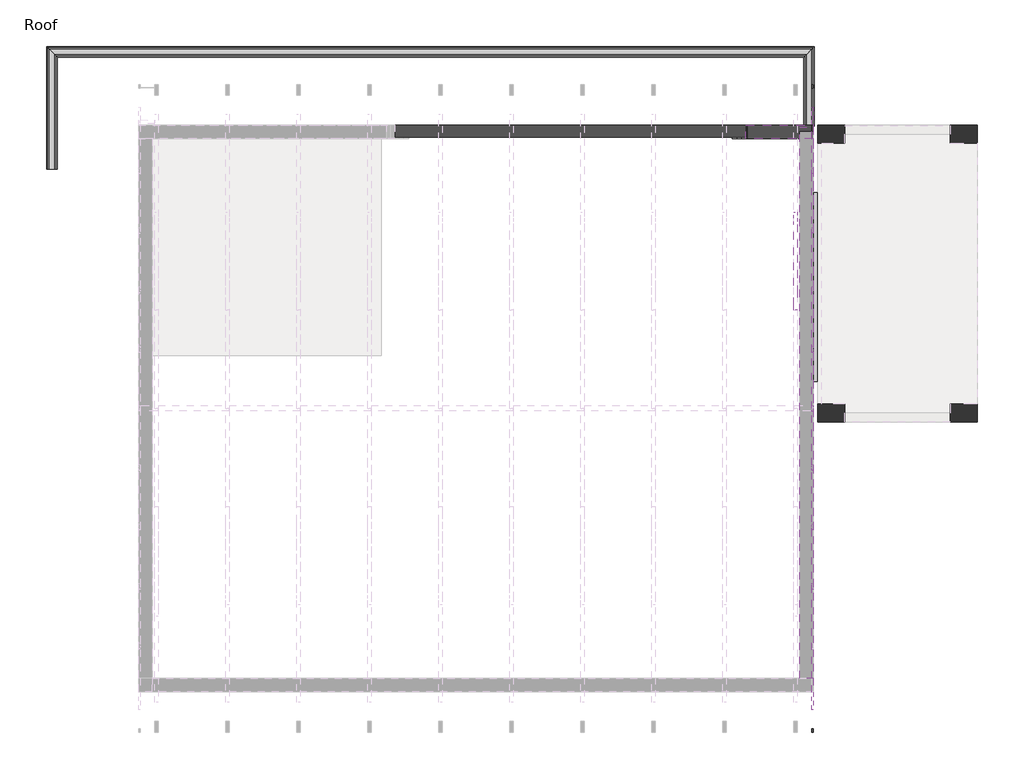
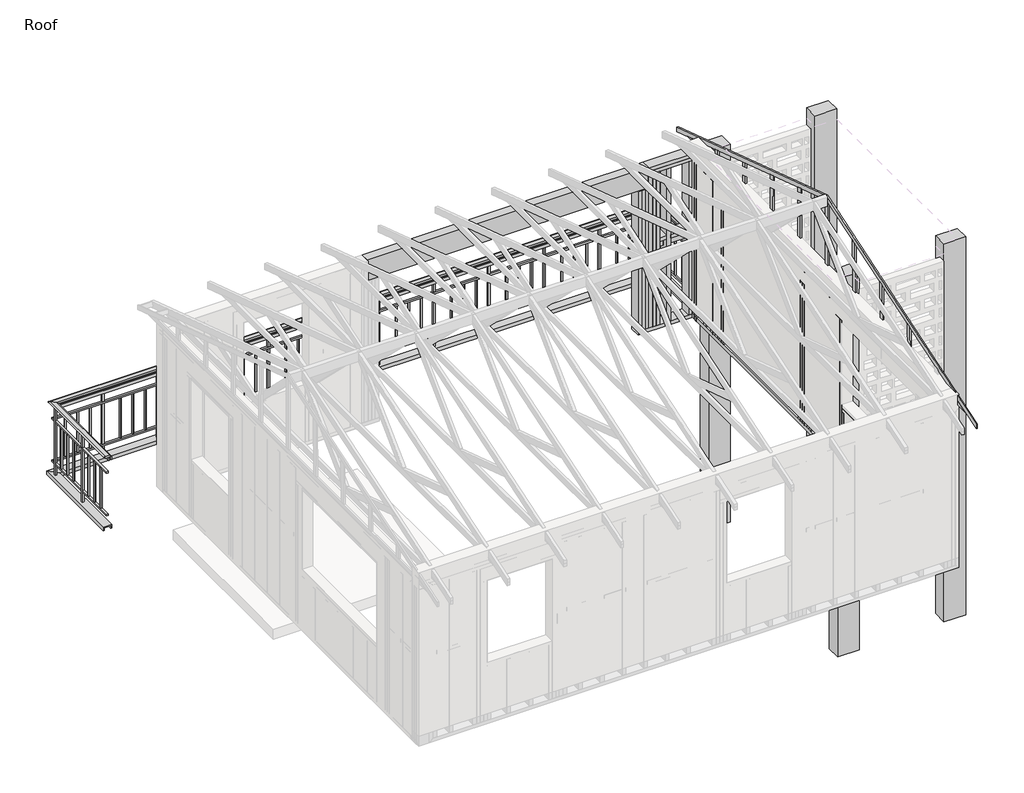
# One storey, part 6 of 6: 81 beams, 4 columns, 1 railing.
"""IFC4 building model written with IfcOpenShell, lengths in millimetres."""

from ifc_helpers import new_model, si_unit, frame, origin, place, context, project, spatial, polyline, outline, extrude, faceted_brep, transform, mapped, element, save
from components import beam_3bb925f9, beam_12bf33d6, beam_a75097df, beam_3d1db731, beam_175f67f2, beam_d3007124, beam_3441daed, beam_63583358, beam_00115404, beam_426ab018, beam_8f42c894, dimension_lumber_6x12_6beca198, experttrusspart_2_x_4_7bcd8695, beam_9beb57b8, beam_8732290f, beam_0b2bfc08, beam_fe6cf38c, beam_1f2a4a11, beam_7a36c676, beam_ed9dd588, beam_3d62fdea, beam_8214b640, beam_887bc2fe, beam_6c61fdf5, beam_94f9b516, beam_558964e0, beam_e041d9c6, beam_8c6c5f68, beam_fcf6d596, beam_edb33da1, beam_bb747b8e, beam_2bd315d8, beam_2e444c4d, beam_dc1d60f5, beam_9d6aa0d6, beam_1c807b94, beam_559e72fd, beam_a83041ab, beam_c92ab070, railing_9f6f884b

model = new_model("IFC4")

# Units and contexts
model_context = context("Model", 3, world=origin())
ifc_project = project(units=[si_unit("LENGTHUNIT", "METRE", prefix="MILLI")], contexts=[model_context])

# Site, building, storey
site = spatial("IfcSite", under=ifc_project)
building = spatial("IfcBuilding", under=site)
storey = spatial("IfcBuildingStorey", under=building, Name="Roof", Elevation=4267.2)

# Beams
placement = place(None, origin())
element("IfcBeam", 1, ObjectType="BraceBeam : 1\" x 3\"", at=placement, inside=storey, context=model_context, shape_type="Brep", body=[
    faceted_brep([(-3928.7290766, -18556.068475, 5537.2), (-3909.6790766, -18556.068475, 5537.2), (-3909.6790766, -25364.6841988, 5537.2), (-3928.7290766, -25364.6841988, 5537.2), (-3909.6790766, -18653.3450708, 5568.95), (-3909.6790766, -18750.6216665, 5600.7), (-3909.6790766, -25170.1310073, 5600.7), (-3909.6790766, -25267.4076031, 5568.95), (-3928.7290766, -18750.6216665, 5600.7), (-3928.7290766, -25170.1310073, 5600.7), (-3928.7290766, -18653.3450708, 5568.95), (-3928.7290766, -25267.4076031, 5568.95)], [[[0, 1, 2, 3]], [[4, 5, 6, 7, 2, 1]], [[5, 8, 9, 6]], [[10, 0, 3, 11, 9, 8]], [[8, 5, 4, 1, 0, 10]], [[6, 9, 11, 3, 2, 7]]]),
])
element("IfcBeam", 2, ObjectType="BraceBeam : 1\" x 3\"", at=placement, inside=storey, context=model_context, shape_type="Brep", body=[
    faceted_brep([(-3928.7290766, -25364.6841988, 5537.2), (-3928.7290766, -18556.068475, 5537.2), (-3909.6790766, -18556.068475, 5537.2), (-3909.6790766, -25364.6841988, 5537.2), (-3909.6790766, -25267.4076031, 5568.95), (-3909.6790766, -18653.3450708, 5568.95), (-3909.6790766, -18750.6216665, 5600.7), (-3909.6790766, -25170.1310073, 5600.7), (-3928.7290766, -18750.6216665, 5600.7), (-3928.7290766, -25170.1310073, 5600.7), (-3928.7290766, -25267.4076031, 5568.95), (-3928.7290766, -18653.3450708, 5568.95)], [[[0, 1, 2, 3]], [[4, 3, 2, 5, 6, 7]], [[7, 6, 8, 9]], [[10, 9, 8, 11, 1, 0]], [[9, 10, 0, 3, 4, 7]], [[6, 5, 2, 1, 11, 8]]]),
])
element("IfcBeam", 3, ObjectType="BraceBeam : 1\" x 3\"", at=placement, inside=storey, context=model_context, shape_type="Brep", body=[
    faceted_brep([(-3928.7290766, -25617.9763369, 5454.5282605), (-3928.7290766, -21960.3763369, 6648.3282605), (-3909.6790766, -21960.3763369, 6648.3282605), (-3909.6790766, -25617.9763369, 5454.5282605), (-3909.6790766, -25617.9763369, 5487.9266302), (-3909.6790766, -21960.3763369, 6681.7266302), (-3909.6790766, -21960.3763369, 6715.125), (-3909.6790766, -25617.9763369, 5521.325), (-3928.7290766, -21960.3763369, 6715.125), (-3928.7290766, -25617.9763369, 5521.325), (-3928.7290766, -25617.9763369, 5487.9266302), (-3928.7290766, -21960.3763369, 6681.7266302)], [[[0, 1, 2, 3]], [[4, 3, 2, 5, 6, 7]], [[7, 6, 8, 9]], [[10, 9, 8, 11, 1, 0]], [[9, 10, 0, 3, 4, 7]], [[6, 5, 2, 1, 11, 8]]]),
])
element("IfcBeam", 4, ObjectType="BraceBeam : 1\" x 3\"", at=placement, inside=storey, context=model_context, shape_type="Brep", body=[
    faceted_brep([(-3909.6790766, -18302.7763369, 5454.5282605), (-3909.6790766, -21960.3763369, 6648.3282605), (-3928.7290766, -21960.3763369, 6648.3282605), (-3928.7290766, -18302.7763369, 5454.5282605), (-3928.7290766, -18302.7763369, 5487.9266302), (-3928.7290766, -21960.3763369, 6681.7266302), (-3928.7290766, -21960.3763369, 6715.125), (-3928.7290766, -18302.7763369, 5521.325), (-3909.6790766, -21960.3763369, 6715.125), (-3909.6790766, -18302.7763369, 5521.325), (-3909.6790766, -18302.7763369, 5487.9266302), (-3909.6790766, -21960.3763369, 6681.7266302)], [[[0, 1, 2, 3]], [[4, 3, 2, 5, 6, 7]], [[7, 6, 8, 9]], [[10, 9, 8, 11, 1, 0]], [[9, 10, 0, 3, 4, 7]], [[6, 5, 2, 1, 11, 8]]]),
])
beam_shape = beam_3bb925f9(model_context)
element("IfcBeam", 5, ObjectType="BraceBeam : 1\" x 3\"", at=placement, inside=storey, context=model_context, shape_type="MappedRepresentation", body=[
    mapped(beam_shape, transform((-3919.2040766, -19948.7189651, 5797.3979168), x_axis=(0.0, -0.009412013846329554, 0.9999557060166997), y_axis=(1.0, -1.20881888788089e-11, 0.0), z_axis=(1.2087653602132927e-11, 0.9999557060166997, 0.009412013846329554))),
])
beam_2_shape = beam_12bf33d6(model_context)
element("IfcBeam", 6, ObjectType="BraceBeam : 1\" x 3\"", at=placement, inside=storey, context=model_context, shape_type="MappedRepresentation", body=[
    mapped(beam_2_shape, transform((-3919.2040766, -19276.5521327, 5687.5575366), x_axis=(0.0, -0.010560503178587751, 0.9999442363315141), y_axis=(1.0, -2.226209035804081e-11, 0.0), z_axis=(2.2260849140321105e-11, 0.9999442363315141, 0.010560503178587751))),
])
beam_3_shape = beam_a75097df(model_context)
element("IfcBeam", 7, ObjectType="BraceBeam : 1\" x 3\"", at=placement, inside=storey, context=model_context, shape_type="MappedRepresentation", body=[
    mapped(beam_3_shape, transform((-3919.2040766, -23971.8455409, 5797.4593327), x_axis=(0.0, 0.010232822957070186, 0.9999476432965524), y_axis=(-1.0, -8.449375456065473e-12, 0.0), z_axis=(8.448932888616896e-12, -0.9999476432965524, 0.010232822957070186))),
])
beam_4_shape = beam_3d1db731(model_context)
element("IfcBeam", 8, ObjectType="BraceBeam : 1\" x 3\"", at=placement, inside=storey, context=model_context, shape_type="MappedRepresentation", body=[
    mapped(beam_4_shape, transform((-3919.2040766, -22627.5788952, 6017.1182188), x_axis=(0.0, 0.00907356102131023, 0.9999588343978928), y_axis=(-1.0, 0.0, 0.0), z_axis=(0.0, -0.9999588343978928, 0.00907356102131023))),
])
beam_5_shape = beam_175f67f2(model_context)
element("IfcBeam", 9, ObjectType="BraceBeam : 1\" x 3\"", at=placement, inside=storey, context=model_context, shape_type="MappedRepresentation", body=[
    mapped(beam_5_shape, transform((-3919.2040766, -23299.7521017, 5907.2757582), x_axis=(0.0, 0.009347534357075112, 0.9999563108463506), y_axis=(-1.0, 1.0289533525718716e-12, 0.0), z_axis=(-1.0289085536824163e-12, -0.9999563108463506, 0.009347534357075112))),
])
beam_6_shape = beam_d3007124(model_context)
element("IfcBeam", 10, ObjectType="BraceBeam : 1\" x 3\"", at=placement, inside=storey, context=model_context, shape_type="MappedRepresentation", body=[
    mapped(beam_6_shape, transform((-3919.2040766, -23971.9253083, 5797.4332975), x_axis=(0.0, 0.009884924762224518, 0.9999511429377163), y_axis=(-1.0, 0.0, 0.0), z_axis=(0.0, -0.9999511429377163, 0.009884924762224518))),
])
beam_7_shape = beam_3441daed(model_context)
element("IfcBeam", 11, ObjectType="BraceBeam : 1\" x 3\"", at=placement, inside=storey, context=model_context, shape_type="MappedRepresentation", body=[
    mapped(beam_7_shape, transform((-3919.2040766, -21293.1172476, 6017.0997677), x_axis=(0.0, -0.008947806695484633, 0.9999599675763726), y_axis=(1.0, 0.0, 0.0), z_axis=(0.0, 0.9999599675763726, 0.008947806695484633))),
])
beam_8_shape = beam_63583358(model_context)
element("IfcBeam", 12, ObjectType="BraceBeam : 1\" x 3\"", at=placement, inside=storey, context=model_context, shape_type="MappedRepresentation", body=[
    mapped(beam_8_shape, transform((-3919.2040766, -20620.9567893, 5907.2614679), x_axis=(0.0, -0.00921853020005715, 0.9999575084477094), y_axis=(1.0, 0.0, 0.0), z_axis=(0.0, 0.9999575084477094, 0.00921853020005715))),
])
beam_9_shape = beam_00115404(model_context)
element("IfcBeam", 13, ObjectType="BraceBeam : 1\" x 3\"", at=placement, inside=storey, context=model_context, shape_type="MappedRepresentation", body=[
    mapped(beam_9_shape, transform((-3919.2040766, -19948.7963309, 5797.4231681), x_axis=(0.0, -0.00974954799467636, 0.9999524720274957), y_axis=(1.0, 0.0, 0.0), z_axis=(0.0, 0.9999524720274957, 0.00974954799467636))),
])
beam_10_shape = beam_426ab018(model_context)
element("IfcBeam", 14, ObjectType="BraceBeam : 1\" x 3\"", at=placement, inside=storey, context=model_context, shape_type="MappedRepresentation", body=[
    mapped(beam_10_shape, transform((-3919.2040766, -19276.6358726, 5687.5848683), x_axis=(0.0, -0.011263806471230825, 0.9999365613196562), y_axis=(1.0, 0.0, 0.0), z_axis=(0.0, 0.9999365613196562, 0.011263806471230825))),
])
beam_11_shape = beam_8f42c894(model_context)
element("IfcBeam", 15, ObjectType="BraceBeam : 1\" x 3\"", at=placement, inside=storey, context=model_context, shape_type="MappedRepresentation", body=[
    mapped(beam_11_shape, transform((-3919.2040766, -21961.4907458, 6141.7871363), x_axis=(0.0, 0.0, 1.0), y_axis=(-1.0, -1.9496712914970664e-12, 0.0), z_axis=(1.9496712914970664e-12, -1.0, 0.0))),
])
dimension_lumber_6x12_shape = dimension_lumber_6x12_6beca198(model_context)
element("IfcBeam", 16, ObjectType="Dimension Lumber : 6x12", at=placement, inside=storey, context=model_context, shape_type="MappedRepresentation", body=[
    mapped(dimension_lumber_6x12_shape, transform((-6652.8740766, -18826.6513369, 5384.8), x_axis=(1.0, 0.0, 0.0), y_axis=(0.0, 1.0, 0.0), z_axis=(0.0, 0.0, 1.0))),
])
element("IfcBeam", 17, ObjectType="ExpertTrussPart : 2 x 4", at=placement, inside=storey, context=model_context, shape_type="SweptSolid", body=[
    extrude(outline(polyline([(-19883.9561718, 5943.8890941), (-19812.3273277, 5920.5102353), (-19740.6984836, 5897.1313765), (-20571.0924881, 5626.1), (-20850.5374103, 5626.1), (-20850.2876203, 5628.4892463), (-19883.9561718, 5943.8890941)])), frame((-4130.6590766, 0.0, 0.0), z_axis=(1.0, 0.0, 0.0), x_axis=(0.0, 1.0, 0.0)), (0.0, 0.0, 1.0), 38.1),
])
experttrusspart_2_x_4_shape = experttrusspart_2_x_4_7bcd8695(model_context)
element("IfcBeam", 18, ObjectType="ExpertTrussPart : 2 x 4", at=placement, inside=storey, context=model_context, shape_type="MappedRepresentation", body=[
    mapped(experttrusspart_2_x_4_shape, transform((-4111.6090766, -20145.3682843, 6029.2111031), x_axis=(0.0, 0.950645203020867, -0.3102800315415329), y_axis=(-1.0, 0.0, 0.0), z_axis=(0.0, 0.3102800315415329, 0.950645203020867))),
])
element("IfcBeam", 19, ObjectType="Rectangular(Timber)-Beam : Timber_0' - 1 31/32\" x0' - 5 29/32\" _ContentGenerator", at=placement, inside=storey, context=model_context, shape_type="SweptSolid", body=[
    extrude(outline(polyline([(-24957.5813369, 5435.6), (-25008.3813369, 5486.4), (-18861.5763369, 5486.4), (-18861.5763369, 5435.6), (-24957.5813369, 5435.6)])), frame((-4062.0790766, 0.0, 0.0), z_axis=(1.0, 0.0, 0.0), x_axis=(0.0, 1.0, 0.0)), (0.0, 0.0, 1.0), 152.4),
])
element("IfcBeam", 20, ObjectType="Rectangular(Timber)-Beam : Timber_0' - 1 31/32\" x0' - 5 29/32\" _ContentGenerator", at=placement, inside=storey, context=model_context, shape_type="SweptSolid", body=[
    extrude(outline(polyline([(-18861.5763369, 3149.6), (-18861.5763369, 3098.8), (-25008.3813369, 3098.8), (-24957.5813369, 3149.6), (-18861.5763369, 3149.6)])), frame((-4062.0790766, 0.0, 0.0), z_axis=(1.0, 0.0, 0.0), x_axis=(0.0, 1.0, 0.0)), (0.0, 0.0, 1.0), 152.4),
])
element("IfcBeam", 21, ObjectType="Rectangular(Timber)-Beam : Timber_0' - 1 31/32\" x0' - 5 29/32\" _ContentGenerator", at=placement, inside=storey, context=model_context, shape_type="SweptSolid", body=[
    extrude(outline(polyline([(-3909.6790766, -18912.3863369), (-3909.6790766, -18963.1863369), (-4062.0790766, -18963.1863369), (-4062.0790766, -18912.3863369), (-3909.6790766, -18912.3863369)])), frame((0.0, 0.0, 3098.8), z_axis=(0.0, 0.0, 1.0), x_axis=(1.0, 0.0, 0.0)), (0.0, 0.0, 1.0), 2336.8),
])
element("IfcBeam", 22, ObjectType="Rectangular(Timber)-Beam : Timber_0' - 1 31/32\" x0' - 5 29/32\" _ContentGenerator", at=placement, inside=storey, context=model_context, shape_type="SweptSolid", body=[
    extrude(outline(polyline([(5486.4, -3909.6740766), (5435.6, -3960.4740766), (3098.8, -3960.4740766), (3098.8, -3909.6740766), (5486.4, -3909.6740766)])), frame((0.0, -18912.3763369, 0.0), z_axis=(0.0, 1.0, 0.0), x_axis=(0.0, 0.0, 1.0)), (0.0, 0.0, 1.0), 152.4),
])
element("IfcBeam", 23, ObjectType="Rectangular(Timber)-Beam : Timber_0' - 1 31/32\" x0' - 5 29/32\" _ContentGenerator", at=placement, inside=storey, context=model_context, shape_type="SweptSolid", body=[
    extrude(outline(polyline([(5435.6, -4620.8740766), (5486.4, -4671.6740766), (3149.6, -4671.6740766), (3149.6, -4620.8740766), (5435.6, -4620.8740766)])), frame((0.0, -18912.3763369, 0.0), z_axis=(0.0, 1.0, 0.0), x_axis=(0.0, 0.0, 1.0)), (0.0, 0.0, 1.0), 152.4),
])
element("IfcBeam", 24, ObjectType="Rectangular(Timber)-Beam : Timber_0' - 1 31/32\" x0' - 5 29/32\" _ContentGenerator", at=placement, inside=storey, context=model_context, shape_type="SweptSolid", body=[
    extrude(outline(polyline([(-3909.6790766, -18759.9763369), (-3909.6790766, -18912.3763369), (-4671.6740766, -18912.3763369), (-4671.6740766, -18759.9763369), (-3909.6790766, -18759.9763369)])), frame((0.0, 0.0, 5486.4), z_axis=(0.0, 0.0, 1.0), x_axis=(1.0, 0.0, 0.0)), (0.0, 0.0, 1.0), 50.8),
])
element("IfcBeam", 25, ObjectType="Rectangular(Timber)-Beam : Timber_0' - 1 31/32\" x0' - 5 29/32\" _ContentGenerator", at=placement, inside=storey, context=model_context, shape_type="SweptSolid", body=[
    extrude(outline(polyline([(5435.6, -3960.4740766), (5486.4, -3909.6740766), (5486.4, -4671.6740766), (5435.6, -4620.8740766), (5435.6, -3960.4740766)])), frame((0.0, -18912.3763369, 0.0), z_axis=(0.0, 1.0, 0.0), x_axis=(0.0, 0.0, 1.0)), (0.0, 0.0, 1.0), 152.4),
])
element("IfcBeam", 26, ObjectType="Rectangular(Timber)-Beam : Timber_0' - 1 31/32\" x0' - 5 29/32\" _ContentGenerator", at=placement, inside=storey, context=model_context, shape_type="SweptSolid", body=[
    extrude(outline(polyline([(-3909.6790766, -22366.7863369), (-3909.6790766, -22417.5863369), (-4062.0790766, -22417.5863369), (-4062.0790766, -22366.7863369), (-3909.6790766, -22366.7863369)])), frame((0.0, 0.0, 3149.6), z_axis=(0.0, 0.0, 1.0), x_axis=(1.0, 0.0, 0.0)), (0.0, 0.0, 1.0), 2286.0),
])
element("IfcBeam", 27, ObjectType="Rectangular(Timber)-Beam : Timber_0' - 1 31/32\" x0' - 5 29/32\" _ContentGenerator", at=placement, inside=storey, context=model_context, shape_type="SweptSolid", body=[
    extrude(outline(polyline([(-3909.6790766, -22315.9863369), (-3909.6790766, -22366.7863369), (-4062.0790766, -22366.7863369), (-4062.0790766, -22315.9863369), (-3909.6790766, -22315.9863369)])), frame((0.0, 0.0, 3149.6), z_axis=(0.0, 0.0, 1.0), x_axis=(1.0, 0.0, 0.0)), (0.0, 0.0, 1.0), 2286.0),
])
element("IfcBeam", 28, ObjectType="Rectangular(Timber)-Beam : Timber_0' - 1 31/32\" x0' - 5 29/32\" _ContentGenerator", at=placement, inside=storey, context=model_context, shape_type="SweptSolid", body=[
    extrude(outline(polyline([(-3909.6790766, -22265.1863369), (-3909.6790766, -22315.9863369), (-4062.0790766, -22315.9863369), (-4062.0790766, -22265.1863369), (-3909.6790766, -22265.1863369)])), frame((0.0, 0.0, 3149.6), z_axis=(0.0, 0.0, 1.0), x_axis=(1.0, 0.0, 0.0)), (0.0, 0.0, 1.0), 2286.0),
])
beam_12_shape = beam_9beb57b8(model_context)
element("IfcBeam", 29, ObjectType="Rectangular(Timber)-Beam : Timber_0' - 1 31/32\" x0' - 5 29/32\" _ContentGenerator", at=placement, inside=storey, context=model_context, shape_type="MappedRepresentation", body=[
    mapped(beam_12_shape, transform((-3985.8790766, -19648.9863369, 4200.525), x_axis=(0.0, 0.0, 1.0), y_axis=(0.0, -1.0, 0.0), z_axis=(1.0, 0.0, 0.0))),
])
element("IfcBeam", 30, ObjectType="Rectangular(Timber)-Beam : Timber_0' - 1 31/32\" x0' - 5 29/32\" _ContentGenerator", at=placement, inside=storey, context=model_context, shape_type="MappedRepresentation", body=[
    mapped(beam_12_shape, transform((-3985.8790766, -21528.5863369, 4200.525), x_axis=(0.0, 0.0, 1.0), y_axis=(0.0, -1.0, 0.0), z_axis=(1.0, 0.0, 0.0))),
])
element("IfcBeam", 31, ObjectType="Rectangular(Timber)-Beam : Timber_0' - 1 31/32\" x0' - 5 29/32\" _ContentGenerator", at=placement, inside=storey, context=model_context, shape_type="MappedRepresentation", body=[
    mapped(beam_12_shape, transform((-3985.8790766, -21579.3863369, 4200.525), x_axis=(0.0, 0.0, 1.0), y_axis=(0.0, -1.0, 0.0), z_axis=(1.0, 0.0, 0.0))),
])
element("IfcBeam", 32, ObjectType="Rectangular(Timber)-Beam : Timber_0' - 1 31/32\" x0' - 5 29/32\" _ContentGenerator", at=placement, inside=storey, context=model_context, shape_type="MappedRepresentation", body=[
    mapped(beam_12_shape, transform((-3985.8790766, -21630.1863369, 4200.525), x_axis=(0.0, 0.0, 1.0), y_axis=(0.0, -1.0, 0.0), z_axis=(1.0, 0.0, 0.0))),
])
element("IfcBeam", 33, ObjectType="Rectangular(Timber)-Beam : Timber_0' - 1 31/32\" x0' - 5 29/32\" _ContentGenerator", at=placement, inside=storey, context=model_context, shape_type="MappedRepresentation", body=[
    mapped(beam_12_shape, transform((-3985.8790766, -19598.1863369, 4200.525), x_axis=(0.0, 0.0, 1.0), y_axis=(0.0, -1.0, 0.0), z_axis=(1.0, 0.0, 0.0))),
])
element("IfcBeam", 34, ObjectType="Rectangular(Timber)-Beam : Timber_0' - 1 31/32\" x0' - 5 29/32\" _ContentGenerator", at=placement, inside=storey, context=model_context, shape_type="MappedRepresentation", body=[
    mapped(beam_12_shape, transform((-3985.8790766, -19547.3863369, 4200.525), x_axis=(0.0, 0.0, 1.0), y_axis=(0.0, -1.0, 0.0), z_axis=(1.0, 0.0, 0.0))),
])
beam_13_shape = beam_8732290f(model_context)
element("IfcBeam", 35, ObjectType="Rectangular(Timber)-Beam : Timber_0' - 1 31/32\" x0' - 5 29/32\" _ContentGenerator", at=placement, inside=storey, context=model_context, shape_type="MappedRepresentation", body=[
    mapped(beam_13_shape, transform((-3985.8790766, -23471.6813369, 3987.8), x_axis=(0.0, -1.0000000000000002, 0.0), y_axis=(0.0, 0.0, -1.0000000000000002), z_axis=(1.0000000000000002, 0.0, 0.0))),
])
element("IfcBeam", 36, ObjectType="Rectangular(Timber)-Beam : Timber_0' - 1 31/32\" x0' - 5 29/32\" _ContentGenerator", at=placement, inside=storey, context=model_context, shape_type="MappedRepresentation", body=[
    mapped(beam_13_shape, transform((-3985.8790766, -23471.6813369, 3937.0), x_axis=(0.0, -1.0000000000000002, 0.0), y_axis=(0.0, 0.0, -1.0000000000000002), z_axis=(1.0000000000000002, 0.0, 0.0))),
])
beam_14_shape = beam_0b2bfc08(model_context)
element("IfcBeam", 37, ObjectType="Rectangular(Timber)-Beam : Timber_0' - 1 31/32\" x0' - 5 29/32\" _ContentGenerator", at=placement, inside=storey, context=model_context, shape_type="MappedRepresentation", body=[
    mapped(beam_14_shape, transform((-3985.8790766, -22544.5863369, 4208.4625), x_axis=(0.0, 0.0, 1.0), y_axis=(0.0, -1.0, 0.0), z_axis=(1.0, 0.0, 0.0))),
])
element("IfcBeam", 38, ObjectType="Rectangular(Timber)-Beam : Timber_0' - 1 31/32\" x0' - 5 29/32\" _ContentGenerator", at=placement, inside=storey, context=model_context, shape_type="MappedRepresentation", body=[
    mapped(beam_14_shape, transform((-3985.8790766, -22493.7663369, 4208.4625), x_axis=(0.0, 0.0, 1.0), y_axis=(0.0, -1.0, 0.0), z_axis=(1.0, 0.0, 0.0))),
])
element("IfcBeam", 39, ObjectType="Rectangular(Timber)-Beam : Timber_0' - 1 31/32\" x0' - 5 29/32\" _ContentGenerator", at=placement, inside=storey, context=model_context, shape_type="MappedRepresentation", body=[
    mapped(beam_14_shape, transform((-3985.8790766, -22442.9663369, 4208.4625), x_axis=(0.0, 0.0, 1.0), y_axis=(0.0, -1.0, 0.0), z_axis=(1.0, 0.0, 0.0))),
])
beam_15_shape = beam_fe6cf38c(model_context)
element("IfcBeam", 40, ObjectType="Rectangular(Timber)-Beam : Timber_0' - 1 31/32\" x0' - 5 29/32\" _ContentGenerator", at=placement, inside=storey, context=model_context, shape_type="MappedRepresentation", body=[
    mapped(beam_15_shape, transform((-4379.5740766, -18836.1763369, 3124.2), x_axis=(-1.0000000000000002, 0.0, 0.0), y_axis=(0.0, 0.0, -1.0000000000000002), z_axis=(0.0, -1.0000000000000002, 0.0))),
])
beam_16_shape = beam_1f2a4a11(model_context)
element("IfcBeam", 41, ObjectType="Rectangular(Timber)-Beam : Timber_0' - 1 31/32\" x0' - 5 29/32\" _ContentGenerator", at=placement, inside=storey, context=model_context, shape_type="MappedRepresentation", body=[
    mapped(beam_16_shape, transform((-4798.6740766, -18835.8951709, 4190.3826968), x_axis=(0.0, 0.0002768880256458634, 0.99999996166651), y_axis=(-1.0, 0.0, 0.0), z_axis=(0.0, -0.99999996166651, 0.00027688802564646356))),
])
element("IfcBeam", 42, ObjectType="Rectangular(Timber)-Beam : Timber_0' - 1 31/32\" x0' - 5 29/32\" _ContentGenerator", at=placement, inside=storey, context=model_context, shape_type="MappedRepresentation", body=[
    mapped(beam_16_shape, transform((-4747.8740766, -18835.8951709, 4190.3826968), x_axis=(0.0, 0.0002768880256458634, 0.99999996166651), y_axis=(-1.0, 0.0, 0.0), z_axis=(0.0, -0.99999996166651, 0.00027688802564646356))),
])
element("IfcBeam", 43, ObjectType="Rectangular(Timber)-Beam : Timber_0' - 1 31/32\" x0' - 5 29/32\" _ContentGenerator", at=placement, inside=storey, context=model_context, shape_type="MappedRepresentation", body=[
    mapped(beam_16_shape, transform((-4697.0740766, -18835.8951709, 4190.3826968), x_axis=(0.0, 0.0002768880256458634, 0.99999996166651), y_axis=(-1.0, 0.0, 0.0), z_axis=(0.0, -0.99999996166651, 0.00027688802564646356))),
])
beam_17_shape = beam_7a36c676(model_context)
element("IfcBeam", 44, ObjectType="Rectangular(Timber)-Beam : Timber_0' - 1 31/32\" x0' - 5 29/32\" _ContentGenerator", at=placement, inside=storey, context=model_context, shape_type="MappedRepresentation", body=[
    mapped(beam_17_shape, transform((-4227.1640766, -18836.1763369, 4413.25), x_axis=(1.0000000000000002, 0.0, 0.0), y_axis=(0.0, 0.0, -1.0000000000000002), z_axis=(0.0, 1.0000000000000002, 0.0))),
])
beam_18_shape = beam_ed9dd588(model_context)
element("IfcBeam", 45, ObjectType="Rectangular(Timber)-Beam : Timber_0' - 1 31/32\" x0' - 5 29/32\" _ContentGenerator", at=placement, inside=storey, context=model_context, shape_type="MappedRepresentation", body=[
    mapped(beam_18_shape, transform((-4455.7690766, -18836.1763369, 4413.25), x_axis=(1.0000000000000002, 0.0, 0.0), y_axis=(0.0, 0.0, -1.0000000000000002), z_axis=(0.0, 1.0000000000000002, 0.0))),
])
beam_19_shape = beam_3d62fdea(model_context)
element("IfcBeam", 46, ObjectType="Rectangular(Timber)-Beam : Timber_0' - 1 31/32\" x0' - 5 29/32\" _ContentGenerator", at=placement, inside=storey, context=model_context, shape_type="MappedRepresentation", body=[
    mapped(beam_19_shape, transform((-3985.8790766, -19293.3813369, 4413.25), x_axis=(0.0, -1.0000000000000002, 0.0), y_axis=(0.0, 0.0, -1.0000000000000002), z_axis=(1.0000000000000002, 0.0, 0.0))),
])
beam_20_shape = beam_8214b640(model_context)
element("IfcBeam", 47, ObjectType="Rectangular(Timber)-Beam : Timber_0' - 1 31/32\" x0' - 5 29/32\" _ContentGenerator", at=placement, inside=storey, context=model_context, shape_type="MappedRepresentation", body=[
    mapped(beam_20_shape, transform((-3985.8790766, -21947.6763369, 4413.25), x_axis=(0.0, -1.0000000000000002, 0.0), y_axis=(0.0, 0.0, -1.0000000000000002), z_axis=(1.0000000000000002, 0.0, 0.0))),
])
beam_21_shape = beam_887bc2fe(model_context)
element("IfcBeam", 48, ObjectType="Rectangular(Timber)-Beam : Timber_0' - 1 31/32\" x0' - 5 29/32\" _ContentGenerator", at=placement, inside=storey, context=model_context, shape_type="MappedRepresentation", body=[
    mapped(beam_21_shape, transform((-3985.8790766, -22201.6813369, 4413.25), x_axis=(0.0, -1.0000000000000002, 0.0), y_axis=(0.0, 0.0, -1.0000000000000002), z_axis=(1.0000000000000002, 0.0, 0.0))),
])
beam_22_shape = beam_6c61fdf5(model_context)
element("IfcBeam", 49, ObjectType="Rectangular(Timber)-Beam : Timber_0' - 1 31/32\" x0' - 5 29/32\" _ContentGenerator", at=placement, inside=storey, context=model_context, shape_type="MappedRepresentation", body=[
    mapped(beam_22_shape, transform((-3985.8790766, -21909.5763369, 5511.8), x_axis=(0.0, -1.0000000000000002, 0.0), y_axis=(0.0, 0.0, -1.0000000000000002), z_axis=(1.0000000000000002, 0.0, 0.0))),
])
beam_23_shape = beam_94f9b516(model_context)
element("IfcBeam", 50, ObjectType="Rectangular(Timber)-Beam : Timber_0' - 1 31/32\" x0' - 5 29/32\" _ContentGenerator", at=placement, inside=storey, context=model_context, shape_type="MappedRepresentation", body=[
    mapped(beam_23_shape, transform((-3985.8790766, -23789.1763369, 3530.6), x_axis=(0.0, 0.0, 1.0), y_axis=(0.0, -1.0, 0.0), z_axis=(1.0, 0.0, 0.0))),
])
element("IfcBeam", 51, ObjectType="Rectangular(Timber)-Beam : Timber_0' - 1 31/32\" x0' - 5 29/32\" _ContentGenerator", at=placement, inside=storey, context=model_context, shape_type="MappedRepresentation", body=[
    mapped(beam_23_shape, transform((-3985.8790766, -23509.7863369, 3530.6), x_axis=(0.0, 0.0, 1.0), y_axis=(0.0, -1.0, 0.0), z_axis=(1.0, 0.0, 0.0))),
])
element("IfcBeam", 52, ObjectType="Rectangular(Timber)-Beam : Timber_0' - 1 31/32\" x0' - 5 29/32\" _ContentGenerator", at=placement, inside=storey, context=model_context, shape_type="MappedRepresentation", body=[
    mapped(beam_23_shape, transform((-3985.8790766, -22595.3863369, 3530.6), x_axis=(0.0, 0.0, 1.0), y_axis=(0.0, -1.0, 0.0), z_axis=(1.0, 0.0, 0.0))),
])
element("IfcBeam", 53, ObjectType="Rectangular(Timber)-Beam : Timber_0' - 1 31/32\" x0' - 5 29/32\" _ContentGenerator", at=placement, inside=storey, context=model_context, shape_type="MappedRepresentation", body=[
    mapped(beam_23_shape, transform((-3985.8790766, -22866.3096702, 3530.6), x_axis=(0.0, 0.0, 1.0), y_axis=(0.0, -1.0, 0.0), z_axis=(1.0, 0.0, 0.0))),
])
element("IfcBeam", 54, ObjectType="Rectangular(Timber)-Beam : Timber_0' - 1 31/32\" x0' - 5 29/32\" _ContentGenerator", at=placement, inside=storey, context=model_context, shape_type="MappedRepresentation", body=[
    mapped(beam_23_shape, transform((-3985.8790766, -23188.0430036, 3530.6), x_axis=(0.0, 0.0, 1.0), y_axis=(0.0, -1.0, 0.0), z_axis=(1.0, 0.0, 0.0))),
])
beam_24_shape = beam_558964e0(model_context)
element("IfcBeam", 55, ObjectType="Rectangular(Timber)-Beam : Timber_0' - 1 31/32\" x0' - 5 29/32\" _ContentGenerator", at=placement, inside=storey, context=model_context, shape_type="MappedRepresentation", body=[
    mapped(beam_24_shape, transform((-3985.8790766, -19217.1763369, 4292.6), x_axis=(0.0, 0.0, 1.0), y_axis=(0.0, -1.0, 0.0), z_axis=(1.0, 0.0, 0.0))),
])
element("IfcBeam", 56, ObjectType="Rectangular(Timber)-Beam : Timber_0' - 1 31/32\" x0' - 5 29/32\" _ContentGenerator", at=placement, inside=storey, context=model_context, shape_type="MappedRepresentation", body=[
    mapped(beam_24_shape, transform((-3985.8790766, -22112.7763369, 4292.6), x_axis=(0.0, 0.0, 1.0), y_axis=(0.0, -1.0, 0.0), z_axis=(1.0, 0.0, 0.0))),
])
element("IfcBeam", 57, ObjectType="Rectangular(Timber)-Beam : Timber_0' - 1 31/32\" x0' - 5 29/32\" _ContentGenerator", at=placement, inside=storey, context=model_context, shape_type="MappedRepresentation", body=[
    mapped(beam_24_shape, transform((-3985.8690766, -18836.1763369, 4292.6), x_axis=(0.0, 0.0, 1.0), y_axis=(1.0, 0.0, 0.0), z_axis=(0.0, 1.0, 0.0))),
])
element("IfcBeam", 58, ObjectType="Rectangular(Timber)-Beam : Timber_0' - 1 31/32\" x0' - 5 29/32\" _ContentGenerator", at=placement, inside=storey, context=model_context, shape_type="MappedRepresentation", body=[
    mapped(beam_24_shape, transform((-4036.6690766, -18836.1763369, 4292.6), x_axis=(0.0, 0.0, 1.0), y_axis=(1.0, 0.0, 0.0), z_axis=(0.0, 1.0, 0.0))),
])
element("IfcBeam", 59, ObjectType="Rectangular(Timber)-Beam : Timber_0' - 1 31/32\" x0' - 5 29/32\" _ContentGenerator", at=placement, inside=storey, context=model_context, shape_type="MappedRepresentation", body=[
    mapped(beam_24_shape, transform((-4544.6740766, -18836.1763369, 4292.6), x_axis=(0.0, 0.0, 1.0), y_axis=(1.0, 0.0, 0.0), z_axis=(0.0, 1.0, 0.0))),
])
element("IfcBeam", 60, ObjectType="Rectangular(Timber)-Beam : Timber_0' - 1 31/32\" x0' - 5 29/32\" _ContentGenerator", at=placement, inside=storey, context=model_context, shape_type="MappedRepresentation", body=[
    mapped(beam_24_shape, transform((-4087.4640766, -18836.1763369, 4292.6), x_axis=(0.0, 0.0, 1.0), y_axis=(1.0, 0.0, 0.0), z_axis=(0.0, 1.0, 0.0))),
])
element("IfcBeam", 61, ObjectType="Rectangular(Timber)-Beam : Timber_0' - 1 31/32\" x0' - 5 29/32\" _ContentGenerator", at=placement, inside=storey, context=model_context, shape_type="MappedRepresentation", body=[
    mapped(beam_24_shape, transform((-4595.4740766, -18836.1763369, 4292.6), x_axis=(0.0, 0.0, 1.0), y_axis=(1.0, 0.0, 0.0), z_axis=(0.0, 1.0, 0.0))),
])
element("IfcBeam", 62, ObjectType="Rectangular(Timber)-Beam : Timber_0' - 1 31/32\" x0' - 5 29/32\" _ContentGenerator", at=placement, inside=storey, context=model_context, shape_type="MappedRepresentation", body=[
    mapped(beam_24_shape, transform((-4392.2640766, -18836.1763369, 4292.6), x_axis=(0.0, 0.0, 1.0), y_axis=(1.0, 0.0, 0.0), z_axis=(0.0, 1.0, 0.0))),
])
element("IfcBeam", 63, ObjectType="Rectangular(Timber)-Beam : Timber_0' - 1 31/32\" x0' - 5 29/32\" _ContentGenerator", at=placement, inside=storey, context=model_context, shape_type="MappedRepresentation", body=[
    mapped(beam_24_shape, transform((-3985.8790766, -21680.9863369, 4292.6), x_axis=(0.0, 0.0, 1.0), y_axis=(0.0, -1.0, 0.0), z_axis=(1.0, 0.0, 0.0))),
])
element("IfcBeam", 64, ObjectType="Rectangular(Timber)-Beam : Timber_0' - 1 31/32\" x0' - 5 29/32\" _ContentGenerator", at=placement, inside=storey, context=model_context, shape_type="MappedRepresentation", body=[
    mapped(beam_24_shape, transform((-3985.8790766, -21731.7863369, 4292.6), x_axis=(0.0, 0.0, 1.0), y_axis=(0.0, -1.0, 0.0), z_axis=(1.0, 0.0, 0.0))),
])
element("IfcBeam", 65, ObjectType="Rectangular(Timber)-Beam : Timber_0' - 1 31/32\" x0' - 5 29/32\" _ContentGenerator", at=placement, inside=storey, context=model_context, shape_type="MappedRepresentation", body=[
    mapped(beam_24_shape, transform((-3985.8790766, -21782.5863369, 4292.6), x_axis=(0.0, 0.0, 1.0), y_axis=(0.0, -1.0, 0.0), z_axis=(1.0, 0.0, 0.0))),
])
element("IfcBeam", 66, ObjectType="Rectangular(Timber)-Beam : Timber_0' - 1 31/32\" x0' - 5 29/32\" _ContentGenerator", at=placement, inside=storey, context=model_context, shape_type="MappedRepresentation", body=[
    mapped(beam_24_shape, transform((-3985.8790766, -19496.5863369, 4292.6), x_axis=(0.0, 0.0, 1.0), y_axis=(0.0, -1.0, 0.0), z_axis=(1.0, 0.0, 0.0))),
])
element("IfcBeam", 67, ObjectType="Rectangular(Timber)-Beam : Timber_0' - 1 31/32\" x0' - 5 29/32\" _ContentGenerator", at=placement, inside=storey, context=model_context, shape_type="MappedRepresentation", body=[
    mapped(beam_24_shape, transform((-3985.8790766, -19445.7863369, 4292.6), x_axis=(0.0, 0.0, 1.0), y_axis=(0.0, -1.0, 0.0), z_axis=(1.0, 0.0, 0.0))),
])
element("IfcBeam", 68, ObjectType="Rectangular(Timber)-Beam : Timber_0' - 1 31/32\" x0' - 5 29/32\" _ContentGenerator", at=placement, inside=storey, context=model_context, shape_type="MappedRepresentation", body=[
    mapped(beam_24_shape, transform((-3985.8790766, -19394.9863369, 4292.6), x_axis=(0.0, 0.0, 1.0), y_axis=(0.0, -1.0, 0.0), z_axis=(1.0, 0.0, 0.0))),
])
beam_25_shape = beam_e041d9c6(model_context)
element("IfcBeam", 69, ObjectType="Rectangular(Timber)-Beam : Timber_0' - 1 31/32\" x0' - 5 29/32\" _ContentGenerator", at=placement, inside=storey, context=model_context, shape_type="MappedRepresentation", body=[
    mapped(beam_25_shape, transform((-3985.8790766, -19102.8813369, 4413.25), x_axis=(0.0, -1.0000000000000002, 0.0), y_axis=(0.0, 0.0, -1.0000000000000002), z_axis=(1.0000000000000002, 0.0, 0.0))),
])
beam_26_shape = beam_8c6c5f68(model_context)
element("IfcBeam", 70, ObjectType="Rectangular(Timber)-Beam : Timber_0' - 1 31/32\" x0' - 5 29/32\" _ContentGenerator", at=placement, inside=storey, context=model_context, shape_type="MappedRepresentation", body=[
    mapped(beam_26_shape, transform((-3985.8790766, -18988.5863369, 4267.2), x_axis=(0.0, 0.0, 1.0), y_axis=(0.0, -1.0, 0.0), z_axis=(1.0, 0.0, 0.0))),
])
beam_27_shape = beam_fcf6d596(model_context)
element("IfcBeam", 71, ObjectType="WallPlates : 6\" x 2\"", at=placement, inside=storey, context=model_context, shape_type="MappedRepresentation", body=[
    mapped(beam_27_shape, transform((-3935.0790766, -20588.7863369, 5248.275), x_axis=(0.0, -1.0, 0.0), y_axis=(1.0, 0.0, 0.0), z_axis=(0.0, 0.0, 1.0))),
])
beam_28_shape = beam_edb33da1(model_context)
element("IfcBeam", 72, ObjectType="WallPlates : 6\" x 2\"", at=placement, inside=storey, context=model_context, shape_type="MappedRepresentation", body=[
    mapped(beam_28_shape, transform((-3979.5240766, -23471.6813369, 5248.275), x_axis=(0.0, -1.0, 0.0), y_axis=(1.0, 0.0, 0.0), z_axis=(0.0, 0.0, 1.0))),
])
beam_29_shape = beam_bb747b8e(model_context)
element("IfcBeam", 73, ObjectType="WallPlates : 6\" x 3\"", at=placement, inside=storey, context=model_context, shape_type="MappedRepresentation", body=[
    mapped(beam_29_shape, transform((-3947.7790766, -19090.1813369, 4318.0), x_axis=(0.0, -1.0000000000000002, 0.0), y_axis=(0.0, 0.0, -1.0000000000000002), z_axis=(1.0000000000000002, 0.0, 0.0))),
])
beam_30_shape = beam_2bd315d8(model_context)
element("IfcBeam", 74, ObjectType="WallPlates : 6\" x 3\"", at=placement, inside=storey, context=model_context, shape_type="MappedRepresentation", body=[
    mapped(beam_30_shape, transform((-4023.9665766, -18836.1763369, 4318.0), x_axis=(1.0000000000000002, 0.0, 0.0), y_axis=(0.0, 0.0, -1.0000000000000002), z_axis=(0.0, 1.0000000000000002, 0.0))),
])
beam_31_shape = beam_2e444c4d(model_context)
element("IfcBeam", 75, ObjectType="WallPlates : 6\" x 3\"", at=placement, inside=storey, context=model_context, shape_type="MappedRepresentation", body=[
    mapped(beam_31_shape, transform((-3947.7790766, -19394.9813369, 4318.0), x_axis=(0.0, -1.0000000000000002, 0.0), y_axis=(0.0, 0.0, -1.0000000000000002), z_axis=(1.0000000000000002, 0.0, 0.0))),
])
beam_32_shape = beam_dc1d60f5(model_context)
element("IfcBeam", 76, ObjectType="WallPlates : 6\" x 3\"", at=placement, inside=storey, context=model_context, shape_type="MappedRepresentation", body=[
    mapped(beam_32_shape, transform((-4265.2715766, -18794.9013369, 4318.0), x_axis=(1.0000000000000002, 0.0, 0.0), y_axis=(0.0, 0.0, -1.0000000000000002), z_axis=(0.0, 1.0000000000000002, 0.0))),
])
beam_33_shape = beam_9d6aa0d6(model_context)
element("IfcBeam", 77, ObjectType="WallPlates : 6\" x 3\"", at=placement, inside=storey, context=model_context, shape_type="MappedRepresentation", body=[
    mapped(beam_33_shape, transform((-4570.0790766, -18794.9013369, 4318.0), x_axis=(1.0000000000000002, 0.0, 0.0), y_axis=(0.0, 0.0, -1.0000000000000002), z_axis=(0.0, 1.0000000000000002, 0.0))),
])
beam_34_shape = beam_1c807b94(model_context)
element("IfcBeam", 78, ObjectType="WallPlates : 6\" x 3\"", at=placement, inside=storey, context=model_context, shape_type="MappedRepresentation", body=[
    mapped(beam_34_shape, transform((-3947.7790766, -21935.7699072, 4318.0), x_axis=(0.0, -1.0000000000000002, 0.0), y_axis=(0.0, 0.0, -1.0000000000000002), z_axis=(1.0000000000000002, 0.0, 0.0))),
])
beam_35_shape = beam_559e72fd(model_context)
element("IfcBeam", 79, ObjectType="WallPlates : 6\" x 3\"", at=placement, inside=storey, context=model_context, shape_type="MappedRepresentation", body=[
    mapped(beam_35_shape, transform((-3947.7790766, -22265.9749072, 4318.0), x_axis=(0.0, -1.0000000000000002, 0.0), y_axis=(0.0, 0.0, -1.0000000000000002), z_axis=(1.0000000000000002, 0.0, 0.0))),
])
beam_36_shape = beam_a83041ab(model_context)
element("IfcBeam", 80, ObjectType="WallPlates : 8\" x 2\"", at=placement, inside=storey, context=model_context, shape_type="MappedRepresentation", body=[
    mapped(beam_36_shape, transform((-3935.0790766, -20588.7863369, 5343.525), x_axis=(0.0, -1.0, 0.0), y_axis=(0.0, 0.0, -1.0), z_axis=(1.0, 0.0, 0.0))),
])
beam_37_shape = beam_c92ab070(model_context)
element("IfcBeam", 81, ObjectType="WallPlates : 8\" x 2\"", at=placement, inside=storey, context=model_context, shape_type="MappedRepresentation", body=[
    mapped(beam_37_shape, transform((-3935.0790766, -23471.6813369, 5359.4), x_axis=(0.0, -1.0, 0.0), y_axis=(0.0, 0.0, -1.0), z_axis=(1.0, 0.0, 0.0))),
])

# Columns
element("IfcColumn", 82, ObjectType="Concrete-Rectangular-Column : 12 x 8", at=placement, inside=storey, context=model_context, shape_type="Brep", body=[
    faceted_brep([(-2055.4592328, -22114.3634775, -101.0661623), (-2360.2592328, -22114.3634775, -101.0661623), (-2360.2592328, -21911.1634775, -101.0661623), (-2055.4592328, -21911.1634775, -101.0661623), (-2055.4592328, -22114.3634775, 5537.2), (-2055.4592328, -21911.1634775, 5537.2), (-2360.2592328, -21911.1634775, 5537.2), (-2360.2592328, -22114.3634775, 3098.8), (-2360.2592328, -22114.3634775, 5283.2), (-2360.2592328, -22114.3634775, 5537.2)], [[[0, 1, 2, 3]], [[4, 0, 3, 5]], [[5, 3, 2, 6]], [[6, 2, 1, 7, 8, 9]], [[9, 8, 7, 1, 0, 4]], [[4, 5, 6, 9]]]),
])
element("IfcColumn", 83, ObjectType="Concrete-Rectangular-Column : 12 x 8", at=placement, inside=storey, context=model_context, shape_type="Brep", body=[
    faceted_brep([(-3554.0790766, -22114.3634775, -101.0661623), (-3858.8790766, -22114.3634775, -101.0661623), (-3858.8790766, -21911.1634775, -101.0661623), (-3554.0790766, -21911.1634775, -101.0661623), (-3554.0790766, -22114.3634775, 5537.2), (-3554.0790766, -22114.3634775, 5283.2), (-3554.0790766, -22114.3634775, 3098.8), (-3554.0790766, -21911.1634775, 5537.2), (-3858.8790766, -21911.1634775, 5537.2), (-3858.8790766, -22114.3634775, 5537.2)], [[[0, 1, 2, 3]], [[4, 5, 6, 0, 3, 7]], [[7, 3, 2, 8]], [[8, 2, 1, 9]], [[9, 1, 0, 6, 5, 4]], [[4, 7, 8, 9]]]),
])
element("IfcColumn", 84, ObjectType="Concrete-Rectangular-Column : 12 x 8", at=placement, inside=storey, context=model_context, shape_type="Brep", body=[
    faceted_brep([(-3554.0790766, -18759.9763369, -101.0661623), (-3554.0790766, -18861.5763369, -101.0661623), (-3554.0790766, -18963.1763369, -101.0661623), (-3858.8790766, -18963.1763369, -101.0661623), (-3858.8790766, -18759.9763369, -101.0661623), (-3554.0790766, -18759.9763369, 5537.2), (-3554.0790766, -18963.1763369, 5537.2), (-3554.0790766, -18759.9763369, 2844.8), (-3554.0790766, -18759.9763369, 3098.8), (-3554.0790766, -18759.9763369, 5283.2), (-3858.8790766, -18963.1763369, 5537.2), (-3858.8790766, -18759.9763369, 5537.2)], [[[0, 1, 2, 3, 4]], [[5, 6, 2, 1, 0, 7, 8, 9]], [[6, 10, 3, 2]], [[10, 11, 4, 3]], [[11, 5, 9, 8, 7, 0, 4]], [[5, 11, 10, 6]]]),
])
element("IfcColumn", 85, ObjectType="Concrete-Rectangular-Column : 12 x 8", at=placement, inside=storey, context=model_context, shape_type="Brep", body=[
    faceted_brep([(-2055.4592328, -18759.9763369, -101.0661623), (-2055.4592328, -18963.1763369, -101.0661623), (-2360.2592328, -18963.1763369, -101.0661623), (-2360.2592328, -18759.9763369, -101.0661623), (-2055.4592328, -18759.9763369, 5537.2), (-2055.4592328, -18963.1763369, 5537.2), (-2360.2592328, -18963.1763369, 5537.2), (-2360.2592328, -18759.9763369, 5537.2), (-2360.2592328, -18759.9763369, 5283.2), (-2360.2592328, -18759.9763369, 3098.8)], [[[0, 1, 2, 3]], [[4, 5, 1, 0]], [[5, 6, 2, 1]], [[6, 7, 8, 9, 3, 2]], [[7, 4, 0, 3, 9, 8]], [[4, 7, 6, 5]]]),
])

# Railing
railing_shape = railing_9f6f884b(model_context)
element("IfcRailing", 86, ObjectType="Deco Type 4", at=placement, inside=storey, context=model_context, shape_type="MappedRepresentation", body=[
    mapped(railing_shape, transform((0.0, 0.0, 0.0), x_axis=(1.0, 0.0, 0.0), y_axis=(0.0, 1.0, 0.0), z_axis=(0.0, 0.0, 1.0))),
])

save(model, "model.ifc")
